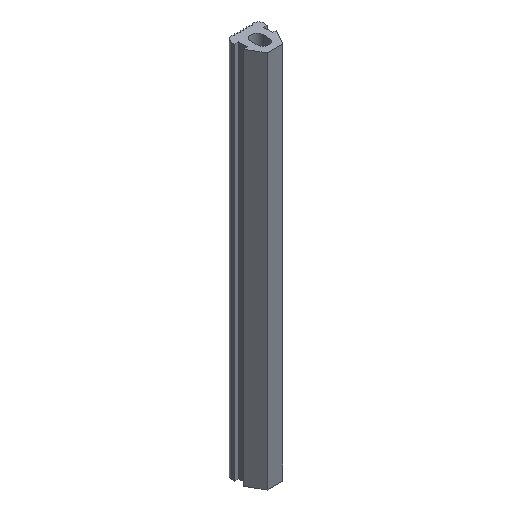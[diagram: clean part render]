
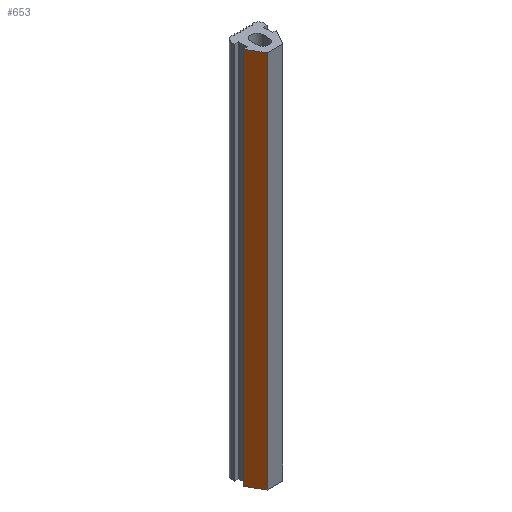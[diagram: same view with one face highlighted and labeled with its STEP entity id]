
A CAD part, isometric view. The second image highlights one B-rep face of the part: STEP entity #653.
In plain terms, the highlighted planar face has unit normal (-0.866, -0.5, 0).
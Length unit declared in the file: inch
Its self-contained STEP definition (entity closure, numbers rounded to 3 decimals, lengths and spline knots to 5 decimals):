
#30=PLANE('',#712);
#62=FACE_OUTER_BOUND('',#95,.T.);
#95=EDGE_LOOP('',(#511,#512,#513,#514));
#156=LINE('',#999,#241);
#157=LINE('',#1002,#242);
#158=LINE('',#1004,#243);
#159=LINE('',#1005,#244);
#241=VECTOR('',#819,0.3937);
#242=VECTOR('',#822,0.3937);
#243=VECTOR('',#823,0.3937);
#244=VECTOR('',#824,0.3937);
#324=VERTEX_POINT('',#995);
#325=VERTEX_POINT('',#997);
#326=VERTEX_POINT('',#1001);
#327=VERTEX_POINT('',#1003);
#402=EDGE_CURVE('',#324,#325,#156,.T.);
#403=EDGE_CURVE('',#326,#324,#157,.T.);
#404=EDGE_CURVE('',#327,#325,#158,.T.);
#405=EDGE_CURVE('',#326,#327,#159,.T.);
#511=ORIENTED_EDGE('',*,*,#403,.T.);
#512=ORIENTED_EDGE('',*,*,#402,.T.);
#513=ORIENTED_EDGE('',*,*,#404,.F.);
#514=ORIENTED_EDGE('',*,*,#405,.F.);
#653=ADVANCED_FACE('',(#62),#30,.T.);
#712=AXIS2_PLACEMENT_3D('',#1000,#820,#821);
#819=DIRECTION('',(0.,0.,1.));
#820=DIRECTION('center_axis',(-0.866,-0.5,0.));
#821=DIRECTION('ref_axis',(0.5,-0.866,0.));
#822=DIRECTION('',(0.5,-0.866,0.));
#823=DIRECTION('',(0.5,-0.866,0.));
#824=DIRECTION('',(0.,0.,1.));
#995=CARTESIAN_POINT('',(-0.10288,-0.25591,0.));
#997=CARTESIAN_POINT('',(-0.10288,-0.25591,5.));
#999=CARTESIAN_POINT('',(-0.10288,-0.25591,0.));
#1000=CARTESIAN_POINT('Origin',(-0.21654,-0.05906,
0.));
#1001=CARTESIAN_POINT('',(-0.21654,-0.05906,0.));
#1002=CARTESIAN_POINT('',(-0.21654,-0.05906,0.));
#1003=CARTESIAN_POINT('',(-0.21654,-0.05906,5.));
#1004=CARTESIAN_POINT('',(-0.21654,-0.05906,5.));
#1005=CARTESIAN_POINT('',(-0.21654,-0.05906,0.));
